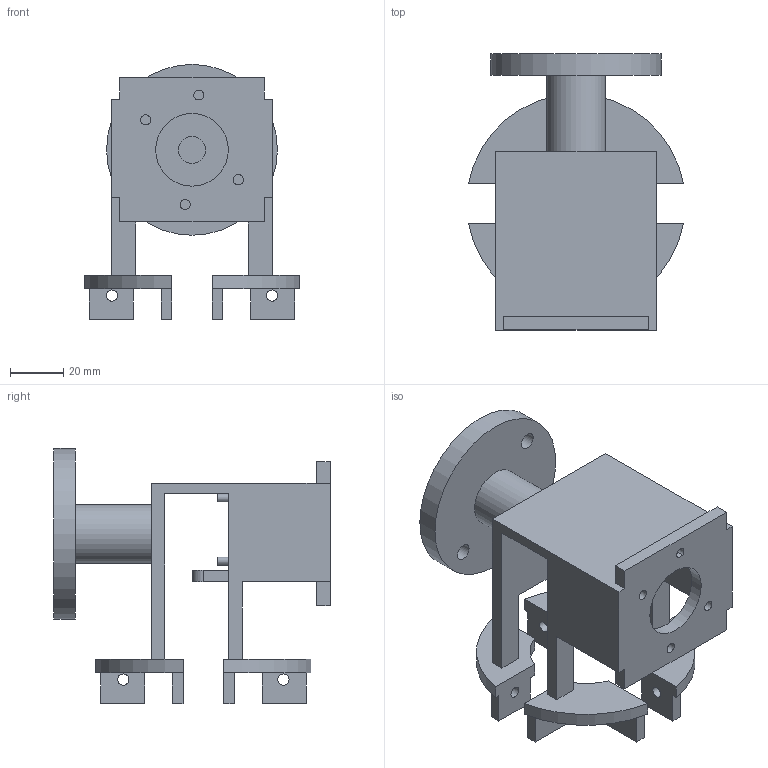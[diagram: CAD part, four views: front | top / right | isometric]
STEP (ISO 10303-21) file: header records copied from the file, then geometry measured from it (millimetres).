
FILE_DESCRIPTION(('Open CASCADE Model'),'2;1');
FILE_NAME('Open CASCADE Shape Model','2026-10-15T18:27:22',('Author'),( 'Open CASCADE'),'Open CASCADE STEP processor 7.9','Open CASCADE 7.9' ,'Unknown');
FILE_SCHEMA(('AUTOMOTIVE_DESIGN { 1 0 10303 214 1 1 1 1 }'));
Length unit declared in the file: millimetre
Products named in the file (1): Open CASCADE STEP translator 7.9 4
Bounding box: 80.58 x 103.5 x 95.6 mm (x, y, z)
Volume: 117432.5 mm3; surface area: 51217.9 mm2
Topology: 1 solids, 1 shells, 115 faces, 315 edges, 210 vertices
Faces by surface type: plane 84, cylinder 31
Full cylindrical faces by diameter (mm): 3 x2, 3.8 x3, 4.2 x8, 6.1 x3, 6.5 x1, 10.2 x1, 22 x1, 27.2 x1, 64 x1
Entity records: 7790 total; most frequent: CARTESIAN_POINT 1618, DIRECTION 1077, LINE 696, VECTOR 696, ORIENTED_EDGE 630, PCURVE 630, DEFINITIONAL_REPRESENTATION 630, EDGE_CURVE 315
